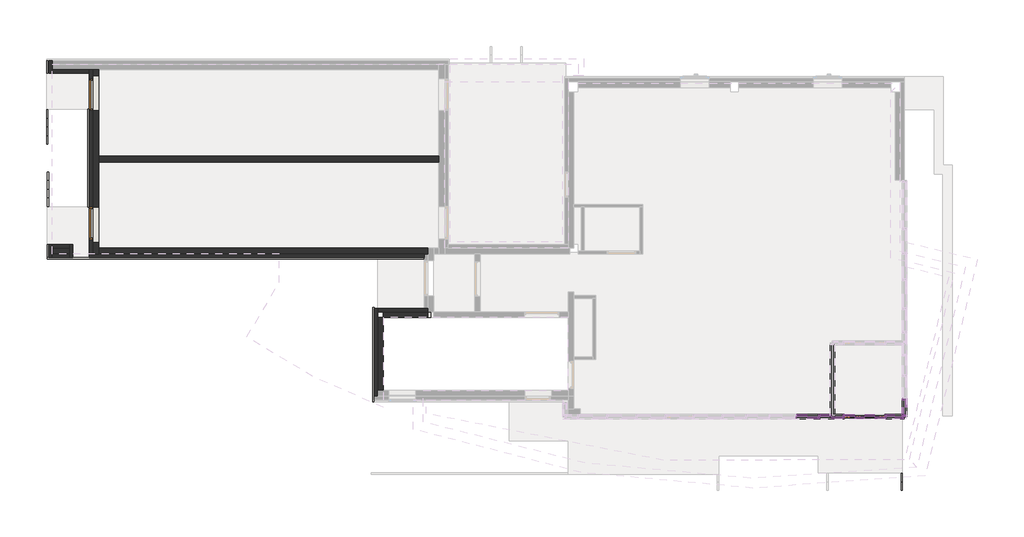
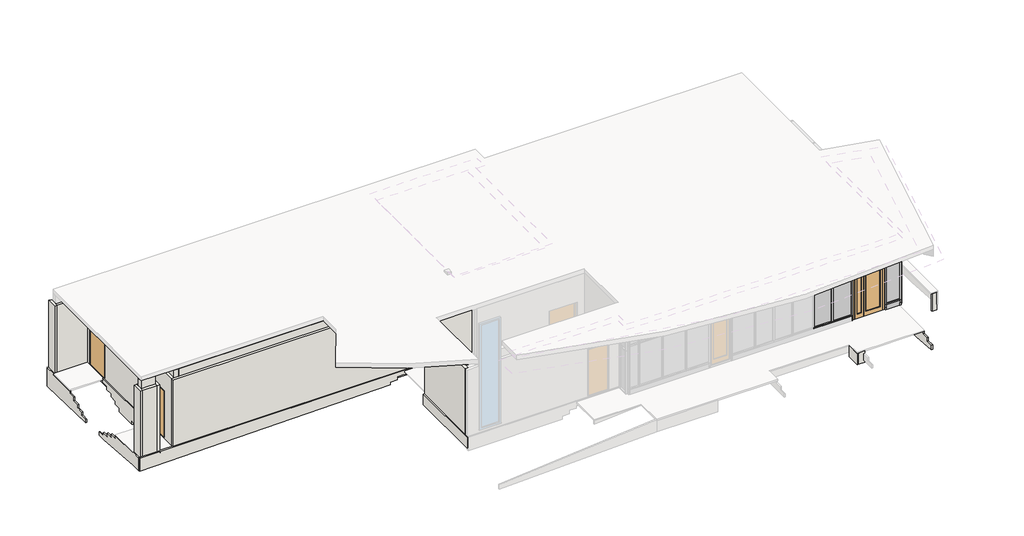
# One storey, part 2 of 4: 37 members, 25 walls, 10 plates, 3 doors.
"""IFC4 building model written with IfcOpenShell, lengths in millimetres."""

from ifc_helpers import new_model, si_unit, frame, origin, place, context, project, spatial, polyline, circle_curve, outline, extrude, faceted_brep, transform, mapped, element, save
from ifc_brep_helpers import plane_surface, cylinder_surface, advanced_brep
from components import door_2dab296f, door_a4a0d0d3, door_cfbb89e6, member_24ac0887, member_6e50c603, member_474f6dcf, member_cbae6808, member_bdea3084, member_61b3b229, member_1f1ab5e9, member_7164932b, member_728da853, member_65e6a114, member_e1845f1f, member_b1af7fba, member_6ffebc0f, member_5dbd0429, member_3eef92e2, member_550cda47, member_dfe3d6a4, member_004b0564, member_24efe938, member_14f10ac7, member_c7e1fe4c, member_457f9466, member_0d3281e4, member_32c4282c, member_044d981f, member_8a69f4a4, member_5b5377e9, plate_732bb6f4, plate_a8ff62f7, plate_88a3cac9, plate_20a5c04c, plate_8821ab84, plate_111b1b22, plate_83b13906, plate_796883d3, plate_dd9e7dd6

model = new_model("IFC4")

# Units and contexts
model_context = context("Model", 3, world=origin())
ifc_project = project(units=[si_unit("LENGTHUNIT", "METRE", prefix="MILLI")], contexts=[model_context])

# Site, building, storey
site = spatial("IfcSite", under=ifc_project)
building = spatial("IfcBuilding", under=site)
storey = spatial("IfcBuildingStorey", under=building, Name="Этаж 1", Elevation=0.0)

# Doors
placement = place(None, origin())
door_shape = door_2dab296f(model_context)
element("IfcDoor", 1, ObjectType="(Dr)_ДПУ(распашная)_2Ст_Прямоугольная : (Нр)-ДО(1380х2165(h))", at=placement, inside=storey, context=model_context, shape_type="MappedRepresentation", body=[
    mapped(door_shape, transform((26221.8862538, -895.4505288, -50.0), x_axis=(-1.0, 0.0, 0.0), y_axis=(0.0, -1.0, 0.0), z_axis=(0.0, 0.0, 1.0))),
])
door_2_shape = door_a4a0d0d3(model_context)
element("IfcDoor", 2, ObjectType="(Dr)_ДУ(распашная)_1Ст_Прямоугольная : (Нр)_ДГ(1.10х2.1(h))", at=placement, inside=storey, context=model_context, shape_type="MappedRepresentation", body=[
    mapped(door_2_shape, transform((-260.0, 10140.0, 0.0), x_axis=(0.0, 1.0, 0.0), y_axis=(-1.0, 0.0, 0.0), z_axis=(0.0, 0.0, 1.0))),
])
door_3_shape = door_cfbb89e6(model_context)
element("IfcDoor", 3, ObjectType="(Dr)_ДУ(распашная)_1Ст_Прямоугольная : (Нр)_ДГ(1.10х2.1(h))", at=placement, inside=storey, context=model_context, shape_type="MappedRepresentation", body=[
    mapped(door_3_shape, transform((-260.0, 5730.0000376, 0.0), x_axis=(0.0, 1.0, 0.0), y_axis=(-1.0, 0.0, 0.0), z_axis=(0.0, 0.0, 1.0))),
])

# Members
member_shape = member_24ac0887(model_context)
element("IfcMember", 4, ObjectType="Прямоугольный импост : 50х150мм", at=placement, inside=storey, context=model_context, shape_type="MappedRepresentation", body=[
    mapped(member_shape, transform((25117.9914484, -895.4505288, 3300.0), x_axis=(0.0, -1.0, 0.0), y_axis=(1.0, 0.0, 0.0), z_axis=(0.0, 0.0, 1.0))),
])
member_2_shape = member_6e50c603(model_context)
element("IfcMember", 5, ObjectType="Прямоугольный импост : 50х150мм", at=placement, inside=storey, context=model_context, shape_type="MappedRepresentation", body=[
    mapped(member_2_shape, transform((25117.9914484, -845.4505288, -50.0), x_axis=(0.0, 0.0, -1.0), y_axis=(1.0, 0.0, 0.0), z_axis=(0.0, -1.0, 0.0))),
])
member_3_shape = member_474f6dcf(model_context)
element("IfcMember", 6, ObjectType="Прямоугольный импост : 50х150мм", at=placement, inside=storey, context=model_context, shape_type="MappedRepresentation", body=[
    mapped(member_3_shape, transform((25481.8862538, -895.4505288, 2140.0), x_axis=(0.0, 0.0, 1.0), y_axis=(0.0, -1.0, 0.0), z_axis=(1.0, 0.0, 0.0))),
])
member_4_shape = member_cbae6808(model_context)
element("IfcMember", 7, ObjectType="Прямоугольный импост : 50х150мм", at=placement, inside=storey, context=model_context, shape_type="MappedRepresentation", body=[
    mapped(member_4_shape, transform((25481.8862538, -895.4505288, 3300.0), x_axis=(0.0, 0.0, 1.0), y_axis=(0.0, -1.0, 0.0), z_axis=(1.0, 0.0, 0.0))),
])
member_5_shape = member_bdea3084(model_context)
element("IfcMember", 8, ObjectType="Прямоугольный импост : 50х150мм", at=placement, inside=storey, context=model_context, shape_type="MappedRepresentation", body=[
    mapped(member_5_shape, transform((26911.8862538, -895.4505288, 2140.0), x_axis=(0.0, 0.0, 1.0), y_axis=(0.0, -1.0, 0.0), z_axis=(1.0, 0.0, 0.0))),
])
member_6_shape = member_61b3b229(model_context)
element("IfcMember", 9, ObjectType="Прямоугольный импост : 50х150мм", at=placement, inside=storey, context=model_context, shape_type="MappedRepresentation", body=[
    mapped(member_6_shape, transform((26911.8862538, -895.4505288, 3300.0), x_axis=(0.0, 0.0, 1.0), y_axis=(0.0, -1.0, 0.0), z_axis=(1.0, 0.0, 0.0))),
])
member_7_shape = member_1f1ab5e9(model_context)
element("IfcMember", 10, ObjectType="Прямоугольный импост : 50х150мм", at=placement, inside=storey, context=model_context, shape_type="MappedRepresentation", body=[
    mapped(member_7_shape, transform((24657.9914484, -895.4505288, 2140.0), x_axis=(1.0, 0.0, 0.0), y_axis=(0.0, -1.0, 0.0), z_axis=(0.0, 0.0, -1.0))),
])
element("IfcMember", 11, ObjectType="Прямоугольный импост : 50х150мм", at=placement, inside=storey, context=model_context, shape_type="MappedRepresentation", body=[
    mapped(member_7_shape, transform((25506.8862538, -895.4505288, 2140.0), x_axis=(1.0, 0.0, 0.0), y_axis=(0.0, -1.0, 0.0), z_axis=(0.0, 0.0, -1.0))),
])
element("IfcMember", 12, ObjectType="Прямоугольный импост : 50х150мм", at=placement, inside=storey, context=model_context, shape_type="MappedRepresentation", body=[
    mapped(member_7_shape, transform((26936.8862538, -895.4505288, 2140.0), x_axis=(1.0, 0.0, 0.0), y_axis=(0.0, -1.0, 0.0), z_axis=(0.0, 0.0, -1.0))),
])
element("IfcMember", 13, ObjectType="Прямоугольный импост : 50х150мм", at=placement, inside=storey, context=model_context, shape_type="MappedRepresentation", body=[
    mapped(member_7_shape, transform((27587.9990554, -295.4505288, 2140.0), x_axis=(0.0, 1.0, 0.0), y_axis=(1.0, 0.0, 0.0), z_axis=(0.0, 0.0, -1.0))),
])
member_8_shape = member_7164932b(model_context)
element("IfcMember", 14, ObjectType="Прямоугольный импост : 50х150мм", at=placement, inside=storey, context=model_context, shape_type="MappedRepresentation", body=[
    mapped(member_8_shape, transform((27587.9990554, -295.4505288, 165.0), x_axis=(0.0, 1.0, 0.0), y_axis=(1.0, 0.0, 0.0), z_axis=(0.0, 0.0, -1.0))),
])
member_9_shape = member_728da853(model_context)
element("IfcMember", 15, ObjectType="Прямоугольный импост : 50х150мм", at=placement, inside=storey, context=model_context, shape_type="MappedRepresentation", body=[
    mapped(member_9_shape, transform((25506.8862538, -895.4505288, 190.0), x_axis=(1.0, 0.0, 0.0), y_axis=(0.0, -1.0, 0.0), z_axis=(0.0, 0.0, -1.0))),
])
element("IfcMember", 16, ObjectType="Прямоугольный импост : 50х150мм", at=placement, inside=storey, context=model_context, shape_type="MappedRepresentation", body=[
    mapped(member_9_shape, transform((26936.8862538, -895.4505288, 190.0), x_axis=(1.0, 0.0, 0.0), y_axis=(0.0, -1.0, 0.0), z_axis=(0.0, 0.0, -1.0))),
])
member_10_shape = member_65e6a114(model_context)
element("IfcMember", 17, ObjectType="Прямоугольный импост : 50х150мм", at=placement, inside=storey, context=model_context, shape_type="MappedRepresentation", body=[
    mapped(member_10_shape, transform((27587.9990554, -895.4505288, 3300.0), x_axis=(0.0, -1.0, 0.0), y_axis=(1.0, 0.0, 0.0), z_axis=(0.0, 0.0, 1.0))),
])
element("IfcMember", 18, ObjectType="Прямоугольный импост : 50х150мм", at=placement, inside=storey, context=model_context, shape_type="MappedRepresentation", body=[
    mapped(member_10_shape, transform((27587.9990554, -895.4505288, 2140.0), x_axis=(1.0, 0.0, 0.0), y_axis=(0.0, -1.0, 0.0), z_axis=(0.0, 0.0, -1.0))),
])
member_11_shape = member_e1845f1f(model_context)
element("IfcMember", 19, ObjectType="Прямоугольный импост : 50х150мм", at=placement, inside=storey, context=model_context, shape_type="MappedRepresentation", body=[
    mapped(member_11_shape, transform((27587.9990554, -895.4505288, 2140.0), x_axis=(0.0, -1.0, 0.0), y_axis=(1.0, 0.0, 0.0), z_axis=(0.0, 0.0, 1.0))),
])
element("IfcMember", 20, ObjectType="Прямоугольный импост : 50х150мм", at=placement, inside=storey, context=model_context, shape_type="MappedRepresentation", body=[
    mapped(member_11_shape, transform((27587.9990554, -895.4505288, 190.0), x_axis=(1.0, 0.0, 0.0), y_axis=(0.0, -1.0, 0.0), z_axis=(0.0, 0.0, -1.0))),
])
member_12_shape = member_b1af7fba(model_context)
element("IfcMember", 21, ObjectType="Прямоугольный импост : 50х150мм", at=placement, inside=storey, context=model_context, shape_type="MappedRepresentation", body=[
    mapped(member_12_shape, transform((27587.9990554, -895.4505288, 190.0), x_axis=(0.0, -1.0, 0.0), y_axis=(1.0, 0.0, 0.0), z_axis=(0.0, 0.0, 1.0))),
])
member_13_shape = member_6ffebc0f(model_context)
element("IfcMember", 22, ObjectType="Прямоугольный импост : 50х150мм", at=placement, inside=storey, context=model_context, shape_type="MappedRepresentation", body=[
    mapped(member_13_shape, transform((27587.9990554, -295.4505288, -50.0), x_axis=(0.0, 0.0, -1.0), y_axis=(1.0, 0.0, 0.0), z_axis=(0.0, -1.0, 0.0))),
])
member_14_shape = member_5dbd0429(model_context)
element("IfcMember", 23, ObjectType="Прямоугольный импост : 50х150мм", at=placement, inside=storey, context=model_context, shape_type="MappedRepresentation", body=[
    mapped(member_14_shape, transform((27587.9990554, -845.4505288, -50.0), x_axis=(0.0, 0.0, -1.0), y_axis=(1.0, 0.0, 0.0), z_axis=(0.0, -1.0, 0.0))),
])
member_15_shape = member_3eef92e2(model_context)
element("IfcMember", 24, ObjectType="Прямоугольный импост : 50х150мм", at=placement, inside=storey, context=model_context, shape_type="MappedRepresentation", body=[
    mapped(member_15_shape, transform((25506.8862538, -895.4505288, -50.0), x_axis=(1.0, 0.0, 0.0), y_axis=(0.0, -1.0, 0.0), z_axis=(0.0, 0.0, -1.0))),
])
element("IfcMember", 25, ObjectType="Прямоугольный импост : 50х150мм", at=placement, inside=storey, context=model_context, shape_type="MappedRepresentation", body=[
    mapped(member_15_shape, transform((26936.8862538, -895.4505288, -50.0), x_axis=(1.0, 0.0, 0.0), y_axis=(0.0, -1.0, 0.0), z_axis=(0.0, 0.0, -1.0))),
])
member_16_shape = member_550cda47(model_context)
element("IfcMember", 26, ObjectType="Прямоугольный импост : 50х150мм", at=placement, inside=storey, context=model_context, shape_type="MappedRepresentation", body=[
    mapped(member_16_shape, transform((27587.9990554, -895.4505288, -50.0), x_axis=(1.0, 0.0, 0.0), y_axis=(0.0, -1.0, 0.0), z_axis=(0.0, 0.0, -1.0))),
])
member_17_shape = member_dfe3d6a4(model_context)
element("IfcMember", 27, ObjectType="Прямоугольный импост : 50х150мм", at=placement, inside=storey, context=model_context, shape_type="MappedRepresentation", body=[
    mapped(member_17_shape, transform((25506.8862538, -895.4505288, 50.0), x_axis=(1.0, 0.0, 0.0), y_axis=(0.0, -1.0, 0.0), z_axis=(0.0, 0.0, -1.0))),
])
element("IfcMember", 28, ObjectType="Прямоугольный импост : 50х150мм", at=placement, inside=storey, context=model_context, shape_type="MappedRepresentation", body=[
    mapped(member_17_shape, transform((26936.8862538, -895.4505288, 50.0), x_axis=(1.0, 0.0, 0.0), y_axis=(0.0, -1.0, 0.0), z_axis=(0.0, 0.0, -1.0))),
])
member_18_shape = member_004b0564(model_context)
element("IfcMember", 29, ObjectType="Прямоугольный импост : 50х150мм", at=placement, inside=storey, context=model_context, shape_type="MappedRepresentation", body=[
    mapped(member_18_shape, transform((27587.9990554, -895.4505288, 50.0), x_axis=(1.0, 0.0, 0.0), y_axis=(0.0, -1.0, 0.0), z_axis=(0.0, 0.0, -1.0))),
])
member_19_shape = member_24efe938(model_context)
element("IfcMember", 30, ObjectType="Прямоугольный импост : 50х150мм", at=placement, inside=storey, context=model_context, shape_type="MappedRepresentation", body=[
    mapped(member_19_shape, transform((24657.9914484, -895.4505288, 215.0), x_axis=(1.0, 0.0, 0.0), y_axis=(0.0, -1.0, 0.0), z_axis=(0.0, 0.0, -1.0))),
])
member_20_shape = member_14f10ac7(model_context)
element("IfcMember", 31, ObjectType="Прямоугольный импост : 50х150мм", at=placement, inside=storey, context=model_context, shape_type="MappedRepresentation", body=[
    mapped(member_20_shape, transform((24657.9914484, -895.4505288, 190.0), x_axis=(0.0, 0.0, 1.0), y_axis=(0.0, -1.0, 0.0), z_axis=(1.0, 0.0, 0.0))),
])
member_21_shape = member_c7e1fe4c(model_context)
element("IfcMember", 32, ObjectType="Прямоугольный импост : 50х150мм", at=placement, inside=storey, context=model_context, shape_type="MappedRepresentation", body=[
    mapped(member_21_shape, transform((25481.8862538, -895.4505288, 190.0), x_axis=(0.0, 0.0, 1.0), y_axis=(0.0, -1.0, 0.0), z_axis=(1.0, 0.0, 0.0))),
])
member_22_shape = member_457f9466(model_context)
element("IfcMember", 33, ObjectType="Прямоугольный импост : 50х150мм", at=placement, inside=storey, context=model_context, shape_type="MappedRepresentation", body=[
    mapped(member_22_shape, transform((24632.9914484, -895.4505288, 2140.0), x_axis=(0.0, 0.0, 1.0), y_axis=(0.0, -1.0, 0.0), z_axis=(1.0, 0.0, 0.0))),
])
member_23_shape = member_0d3281e4(model_context)
element("IfcMember", 34, ObjectType="Прямоугольный импост : 50х150мм", at=placement, inside=storey, context=model_context, shape_type="MappedRepresentation", body=[
    mapped(member_23_shape, transform((24632.9914484, -895.4505288, 3300.0), x_axis=(0.0, 0.0, 1.0), y_axis=(0.0, -1.0, 0.0), z_axis=(1.0, 0.0, 0.0))),
])
member_24_shape = member_32c4282c(model_context)
element("IfcMember", 35, ObjectType="Прямоугольный импост : 50х150мм", at=placement, inside=storey, context=model_context, shape_type="MappedRepresentation", body=[
    mapped(member_24_shape, transform((27537.9990554, -895.4505288, 3300.0), x_axis=(0.0, 0.0, 1.0), y_axis=(0.0, -1.0, 0.0), z_axis=(1.0, 0.0, 0.0))),
])
member_25_shape = member_044d981f(model_context)
element("IfcMember", 36, ObjectType="Прямоугольный импост : 50х150мм", at=placement, inside=storey, context=model_context, shape_type="MappedRepresentation", body=[
    mapped(member_25_shape, transform((27537.9990554, -895.4505288, 2140.0), x_axis=(0.0, 0.0, 1.0), y_axis=(0.0, -1.0, 0.0), z_axis=(1.0, 0.0, 0.0))),
])
element("IfcMember", 37, ObjectType="Прямоугольный импост : 50х150мм", at=placement, inside=storey, context=model_context, shape_type="MappedRepresentation", body=[
    mapped(member_25_shape, transform((27537.9990554, -895.4505288, 190.0), x_axis=(0.0, 0.0, 1.0), y_axis=(0.0, -1.0, 0.0), z_axis=(1.0, 0.0, 0.0))),
])
member_26_shape = member_8a69f4a4(model_context)
element("IfcMember", 38, ObjectType="Прямоугольный импост : 50х150мм", at=placement, inside=storey, context=model_context, shape_type="MappedRepresentation", body=[
    mapped(member_26_shape, transform((27587.9990554, -320.4505288, 2140.0), x_axis=(0.0, 0.0, 1.0), y_axis=(1.0, 0.0, 0.0), z_axis=(0.0, 1.0, 0.0))),
])
element("IfcMember", 39, ObjectType="Прямоугольный импост : 50х150мм", at=placement, inside=storey, context=model_context, shape_type="MappedRepresentation", body=[
    mapped(member_26_shape, transform((27587.9990554, -320.4505288, 190.0), x_axis=(0.0, 0.0, 1.0), y_axis=(1.0, 0.0, 0.0), z_axis=(0.0, 1.0, 0.0))),
])
member_27_shape = member_5b5377e9(model_context)
element("IfcMember", 40, ObjectType="Прямоугольный импост : 50х150мм", at=placement, inside=storey, context=model_context, shape_type="MappedRepresentation", body=[
    mapped(member_27_shape, transform((27587.9990554, -320.4505288, 3300.0), x_axis=(0.0, 0.0, 1.0), y_axis=(1.0, 0.0, 0.0), z_axis=(0.0, 1.0, 0.0))),
])

# Plates
element("IfcPlate", 41, ObjectType="(Нр)_(См-10.Ут-130.См-10)", at=placement, inside=storey, context=model_context, shape_type="SweptSolid", body=[
    extrude(outline(polyline([(27537.9990554, -970.4505288), (26961.8862538, -970.4505288), (26961.8862538, -820.4505288), (27537.9990554, -820.4505288), (27537.9990554, -970.4505288)])), frame((0.0, 0.0, -50.0), z_axis=(0.0, 0.0, 1.0), x_axis=(1.0, 0.0, 0.0)), (0.0, 0.0, 1.0), 215.0),
])
plate_shape = plate_732bb6f4(model_context)
element("IfcPlate", 42, ObjectType="Системная панель : Стекло(50мм)", at=placement, inside=storey, context=model_context, shape_type="MappedRepresentation", body=[
    mapped(plate_shape, transform((24257.9914484, -895.4505288, 2165.0), x_axis=(1.0, 0.0, 0.0), y_axis=(0.0, 1.0, 0.0), z_axis=(0.0, 0.0, 1.0))),
])
plate_2_shape = plate_a8ff62f7(model_context)
element("IfcPlate", 43, ObjectType="Системная панель : Стекло(50мм)", at=placement, inside=storey, context=model_context, shape_type="MappedRepresentation", body=[
    mapped(plate_2_shape, transform((25082.4388511, -895.4505288, 2165.0), x_axis=(1.0, 0.0, 0.0), y_axis=(0.0, 1.0, 0.0), z_axis=(0.0, 0.0, 1.0))),
])
plate_3_shape = plate_88a3cac9(model_context)
element("IfcPlate", 44, ObjectType="Системная панель : Стекло(50мм)", at=placement, inside=storey, context=model_context, shape_type="MappedRepresentation", body=[
    mapped(plate_3_shape, transform((26221.8862538, -895.4505288, 2165.0), x_axis=(1.0, 0.0, 0.0), y_axis=(0.0, 1.0, 0.0), z_axis=(0.0, 0.0, 1.0))),
])
plate_4_shape = plate_20a5c04c(model_context)
element("IfcPlate", 45, ObjectType="Системная панель : Стекло(50мм)", at=placement, inside=storey, context=model_context, shape_type="MappedRepresentation", body=[
    mapped(plate_4_shape, transform((27249.9426546, -895.4505288, 2165.0), x_axis=(1.0, 0.0, 0.0), y_axis=(0.0, 1.0, 0.0), z_axis=(0.0, 0.0, 1.0))),
])
plate_5_shape = plate_8821ab84(model_context)
element("IfcPlate", 46, ObjectType="Системная панель : Стекло(50мм)", at=placement, inside=storey, context=model_context, shape_type="MappedRepresentation", body=[
    mapped(plate_5_shape, transform((24257.9914484, -895.4505288, 215.0), x_axis=(1.0, 0.0, 0.0), y_axis=(0.0, 1.0, 0.0), z_axis=(0.0, 0.0, 1.0))),
])
plate_6_shape = plate_111b1b22(model_context)
element("IfcPlate", 47, ObjectType="Системная панель : Стекло(50мм)", at=placement, inside=storey, context=model_context, shape_type="MappedRepresentation", body=[
    mapped(plate_6_shape, transform((25082.4388511, -895.4505288, 215.0), x_axis=(1.0, 0.0, 0.0), y_axis=(0.0, 1.0, 0.0), z_axis=(0.0, 0.0, 1.0))),
])
plate_7_shape = plate_83b13906(model_context)
element("IfcPlate", 48, ObjectType="Системная панель : Стекло(50мм)", at=placement, inside=storey, context=model_context, shape_type="MappedRepresentation", body=[
    mapped(plate_7_shape, transform((27249.9426546, -895.4505288, 215.0), x_axis=(1.0, 0.0, 0.0), y_axis=(0.0, 1.0, 0.0), z_axis=(0.0, 0.0, 1.0))),
])
plate_8_shape = plate_796883d3(model_context)
element("IfcPlate", 49, ObjectType="Системная панель : Стекло(50мм)", at=placement, inside=storey, context=model_context, shape_type="MappedRepresentation", body=[
    mapped(plate_8_shape, transform((27587.9990554, -582.9505288, 2165.0), x_axis=(0.0, 1.0, 0.0), y_axis=(-1.0, 0.0, 0.0), z_axis=(0.0, 0.0, 1.0))),
])
plate_9_shape = plate_dd9e7dd6(model_context)
element("IfcPlate", 50, ObjectType="Системная панель : Стекло(50мм)", at=placement, inside=storey, context=model_context, shape_type="MappedRepresentation", body=[
    mapped(plate_9_shape, transform((27587.9990554, -582.9505288, 215.0), x_axis=(0.0, 1.0, 0.0), y_axis=(-1.0, 0.0, 0.0), z_axis=(0.0, 0.0, 1.0))),
])

# Walls
element("IfcWall", 51, ObjectType="(Нр).(Ут-120)", at=placement, inside=storey, context=model_context, shape_type="Brep", body=[
    faceted_brep([(9550.291724, -200.0, -300.0), (9550.291724, 2700.0, -300.0), (9550.291724, 2820.0, -300.0), (9550.291724, 2820.0, 2955.0), (9550.291724, 2700.0, 2955.0), (9550.291724, -200.0, 2955.0), (9430.291724, -200.0, -300.0), (9430.291724, -200.0, 2955.0), (9430.291724, 2820.0, 2955.0), (9430.291724, 2820.0, -300.0)], [[[0, 1, 2, 3, 4, 5]], [[6, 7, 8, 9]], [[2, 1, 0, 6, 9]], [[5, 4, 3, 8, 7]], [[0, 5, 7, 6]], [[3, 2, 9, 8]]]),
])
element("IfcWall", 52, ObjectType="(Нр).(Ут-120)", at=placement, inside=storey, context=model_context, shape_type="Brep", body=[
    faceted_brep([(9550.291724, 2700.0, -300.0), (11270.0, 2700.0, -300.0), (11270.0, 2700.0, 2955.0), (9550.291724, 2700.0, 2955.0), (9550.291724, 2820.0, -300.0), (9550.291724, 2820.0, 2955.0), (11150.0, 2820.0, 2955.0), (11270.0, 2820.0, 2955.0), (11270.0, 2820.0, -300.0), (11150.0, 2820.0, -300.0)], [[[0, 1, 2, 3]], [[4, 5, 6, 7, 8, 9]], [[1, 0, 4, 9, 8]], [[3, 2, 7, 6, 5]], [[0, 3, 5, 4]], [[2, 1, 8, 7]]]),
])
element("IfcWall", 53, ObjectType="(Нр).(Ут-120)", at=placement, inside=storey, context=model_context, shape_type="Brep", body=[
    faceted_brep([(11150.0, 4680.0, -300.0), (-200.0, 4680.0, -300.0), (-320.0, 4680.0, -300.0), (-320.0, 4680.0, 2955.0), (-200.0, 4680.0, 2955.0), (11150.0, 4680.0, 2955.0), (11150.0, 4560.0, -300.0), (11150.0, 4560.0, 2955.0), (-320.0, 4560.0, 2955.0), (-320.0, 4560.0, -300.0)], [[[0, 1, 2, 3, 4, 5]], [[6, 7, 8, 9]], [[2, 1, 0, 6, 9]], [[5, 4, 3, 8, 7]], [[0, 5, 7, 6]], [[3, 2, 9, 8]]]),
])
element("IfcWall", 54, ObjectType="(Нр).(Ут-120)", at=placement, inside=storey, context=model_context, shape_type="Brep", body=[
    faceted_brep([(-200.0, 4680.0, -300.0), (-200.0, 10990.0, -300.0), (-200.0, 10990.0, 2955.0), (-200.0, 4680.0, 2955.0), (-200.0, 6280.0000376, 2100.0), (-200.0, 6280.0000376, 0.0), (-200.0, 5180.0000376, 0.0), (-200.0, 5180.0000376, 2100.0), (-200.0, 10690.0, 2100.0), (-200.0, 10690.0, 0.0), (-200.0, 9590.0, 0.0), (-200.0, 9590.0, 2100.0), (-320.0, 4680.0, -300.0), (-320.0, 4680.0, 2955.0), (-320.0, 10870.0, 2955.0), (-320.0, 10990.0, 2955.0), (-320.0, 10990.0, -300.0), (-320.0, 10870.0, -300.0), (-320.0, 6280.0000376, 0.0), (-320.0, 6280.0000376, 2100.0), (-320.0, 5180.0000376, 2100.0), (-320.0, 5180.0000376, 0.0), (-320.0, 10690.0, 0.0), (-320.0, 10690.0, 2100.0), (-320.0, 9590.0, 2100.0), (-320.0, 9590.0, 0.0)], [[[0, 1, 2, 3], [4, 5, 6, 7], [8, 9, 10, 11]], [[12, 13, 14, 15, 16, 17], [18, 19, 20, 21], [22, 23, 24, 25]], [[1, 0, 12, 17, 16]], [[3, 2, 15, 14, 13]], [[0, 3, 13, 12]], [[2, 1, 16, 15]], [[5, 4, 19, 18]], [[19, 4, 7, 20]], [[20, 7, 6, 21]], [[5, 18, 21, 6]], [[9, 8, 23, 22]], [[23, 8, 11, 24]], [[24, 11, 10, 25]], [[9, 22, 25, 10]]]),
])
element("IfcWall", 55, ObjectType="(Нр).(Ут-120)", at=placement, inside=storey, context=model_context, shape_type="SweptSolid", body=[
    extrude(outline(polyline([(-1595.9332962, 10990.0), (-320.0, 10990.0), (-320.0, 10870.0), (-1595.9332962, 10870.0), (-1595.9332962, 10990.0)])), frame((0.0, 0.0, -300.0), z_axis=(0.0, 0.0, 1.0), x_axis=(1.0, 0.0, 0.0)), (0.0, 0.0, 1.0), 3255.0),
])
element("IfcWall", 56, ObjectType="(Нр).(Ут-120)", at=placement, inside=storey, context=model_context, shape_type="Brep", body=[
    faceted_brep([(-1595.9332962, 10870.0, 2955.0), (-1595.9332962, 10870.0, -300.0), (-1595.9332962, 10990.0, -300.0), (-1595.9332962, 11190.0, -300.0), (-1595.9332962, 11310.0, -300.0), (-1595.9332962, 11310.0, 2955.0), (-1595.9332962, 11190.0, 2955.0), (-1595.9332962, 10990.0, 2955.0), (-1715.9332962, 10870.0, -300.0), (-1715.9332962, 10870.0, 2955.0), (-1715.9332962, 11310.0, 2955.0), (-1715.9332962, 11310.0, -300.0)], [[[0, 1, 2, 3, 4, 5, 6, 7]], [[8, 9, 10, 11]], [[4, 3, 2, 1, 8, 11]], [[0, 7, 6, 5, 10, 9]], [[0, 9, 8, 1]], [[4, 11, 10, 5]]]),
])
element("IfcWall", 57, ObjectType="(Нр).(Ут-120)", at=placement, inside=storey, context=model_context, shape_type="SweptSolid", body=[
    extrude(outline(polyline([(-1000.0, 4880.0), (-1595.9332962, 4880.0), (-1596.496293, 5000.0), (-1000.0, 5000.0), (-1000.0, 4880.0)])), frame((0.0, 0.0, -300.0), z_axis=(0.0, 0.0, 1.0), x_axis=(1.0, 0.0, 0.0)), (0.0, 0.0, 1.0), 3255.0),
])
element("IfcWall", 58, ObjectType="(Нр).(Ут-120)", at=placement, inside=storey, context=model_context, shape_type="Brep", body=[
    faceted_brep([(-1000.0, 5000.0, -300.0), (-1000.0, 4880.0, -300.0), (-1000.0, 4680.0, -300.0), (-1000.0, 4560.0, -300.0), (-1000.0, 4560.0, 2955.0), (-1000.0, 4680.0, 2955.0), (-1000.0, 4880.0, 2955.0), (-1000.0, 5000.0, 2955.0), (-880.0, 5000.0, -300.0), (-880.0, 5000.0, 2955.0), (-880.0, 4560.0, 2955.0), (-880.0, 4560.0, -300.0)], [[[0, 1, 2, 3, 4, 5, 6, 7]], [[8, 9, 10, 11]], [[3, 2, 1, 0, 8, 11]], [[7, 6, 5, 4, 10, 9]], [[0, 7, 9, 8]], [[4, 3, 11, 10]]]),
])
element("IfcWall", 59, ObjectType="(Нр).(Ут-120)", at=placement, inside=storey, context=model_context, shape_type="SweptSolid", body=[
    extrude(outline(polyline([(-1594.994968, 4680.0), (-1000.0, 4680.0), (-1000.0, 4560.0), (-1594.4319711, 4560.0), (-1594.994968, 4680.0)])), frame((0.0, 0.0, -300.0), z_axis=(0.0, 0.0, 1.0), x_axis=(1.0, 0.0, 0.0)), (0.0, 0.0, 1.0), 3255.0),
])
element("IfcWall", 60, ObjectType="(Нр).(Ут-120)", at=placement, inside=storey, context=model_context, shape_type="Brep", body=[
    faceted_brep([(-1594.4319711, 4560.0, -300.0), (-1594.994968, 4680.0, -300.0), (-1595.9332962, 4880.0, -300.0), (-1596.496293, 5000.0, -300.0), (-1596.496293, 5000.0, 2955.0), (-1595.9332962, 4880.0, 2955.0), (-1594.994968, 4680.0, 2955.0), (-1594.4319711, 4560.0, 2955.0), (-1714.4332918, 4560.0, -300.0), (-1714.4332918, 4560.0, 2955.0), (-1716.4976137, 5000.0, 2955.0), (-1716.4976137, 5000.0, -300.0)], [[[0, 1, 2, 3, 4, 5, 6, 7]], [[8, 9, 10, 11]], [[3, 2, 1, 0, 8, 11]], [[7, 6, 5, 4, 10, 9]], [[4, 3, 11, 10]], [[0, 7, 9, 8]]]),
])
element("IfcWall", 61, ObjectType="(Нр)_(ЖБ-200)", at=placement, inside=storey, context=model_context, shape_type="Brep", body=[
    faceted_brep([(-200.0, 10990.0, -100.0), (-200.0, 4680.0, -100.0), (-200.0, 4680.0, 3300.0), (-200.0, 10990.0, 3300.0), (-200.0, 5080.0000376, 2100.0), (-200.0, 5080.0000376, 0.0), (-200.0, 6280.0000376, 0.0), (-200.0, 6280.0000376, 2100.0), (-200.0, 9590.0, 2100.0), (-200.0, 9590.0, 0.0), (-200.0, 10790.0, 0.0), (-200.0, 10790.0, 2100.0), (0.0, 10990.0, -100.0), (0.0, 10990.0, 3300.0), (0.0, 8035.0, 3300.0), (0.0, 7835.0, 3300.0), (0.0, 4880.0, 3300.0), (0.0, 4680.0, 3300.0), (0.0, 4680.0, -100.0), (0.0, 4880.0, -100.0), (0.0, 7835.0, -100.0), (0.0, 8035.0, -100.0), (0.0, 5080.0000376, 2100.0), (0.0, 6280.0000376, 2100.0), (0.0, 6280.0000376, 0.0), (0.0, 5080.0000376, 0.0), (0.0, 9590.0, 2100.0), (0.0, 10790.0, 2100.0), (0.0, 10790.0, 0.0), (0.0, 9590.0, 0.0)], [[[0, 1, 2, 3], [4, 5, 6, 7], [8, 9, 10, 11]], [[12, 13, 14, 15, 16, 17, 18, 19, 20, 21], [22, 23, 24, 25], [26, 27, 28, 29]], [[1, 0, 12, 21, 20, 19, 18]], [[3, 2, 17, 16, 15, 14, 13]], [[0, 3, 13, 12]], [[2, 1, 18, 17]], [[5, 4, 22, 25]], [[6, 5, 25, 24]], [[7, 6, 24, 23]], [[4, 7, 23, 22]], [[9, 8, 26, 29]], [[10, 9, 29, 28]], [[11, 10, 28, 27]], [[8, 11, 27, 26]]]),
])
element("IfcWall", 62, ObjectType="(Вн)_(ЖБ-200)", at=placement, inside=storey, context=model_context, shape_type="SweptSolid", body=[
    extrude(outline(polyline([(11650.0, 7835.0), (0.0, 7835.0), (0.0, 8035.0), (11650.0, 8035.0), (11650.0, 7835.0)])), frame((0.0, 0.0, -100.0), z_axis=(0.0, 0.0, 1.0), x_axis=(1.0, 0.0, 0.0)), (0.0, 0.0, 1.0), 3400.0),
])
element("IfcWall", 63, ObjectType="(Нр)_(ЖБ-200)", at=placement, inside=storey, context=model_context, shape_type="Brep", body=[
    faceted_brep([(0.0, 4680.0, -100.0), (11270.0, 4680.0, -100.0), (11270.0, 4680.0, 3300.0), (0.0, 4680.0, 3300.0), (0.0, 4880.0, -100.0), (0.0, 4880.0, 3300.0), (11270.0, 4880.0, 3300.0), (11270.0, 4880.0, 0.0), (11270.0, 4880.0, -100.0)], [[[0, 1, 2, 3]], [[4, 5, 6, 7, 8]], [[1, 0, 4, 8]], [[3, 2, 6, 5]], [[0, 3, 5, 4]], [[2, 1, 8, 7, 6]]]),
])
element("IfcWall", 64, ObjectType="(Нр)_(ЖБ-200)", at=placement, inside=storey, context=model_context, shape_type="Brep", body=[
    faceted_brep([(11370.0, 2700.0, 0.0), (11370.0, 2700.0, -100.0), (11370.0, 2700.0, -300.0), (9750.291724, 2700.0, -300.0), (9750.291724, 2700.0, 3300.0), (11270.0, 2700.0, 3300.0), (11270.0, 2700.0, 0.0), (11370.0, 2500.0, 0.0), (11270.0, 2500.0, 0.0), (11270.0, 2500.0, 3300.0), (9750.291724, 2500.0, 3300.0), (9750.291724, 2500.0, -300.0), (11370.0, 2500.0, -300.0), (11370.0, 2500.0, -100.0)], [[[0, 1, 2, 3, 4, 5, 6]], [[7, 8, 9, 10, 11, 12, 13]], [[2, 1, 0, 7, 13, 12]], [[3, 2, 12, 11]], [[4, 3, 11, 10]], [[5, 4, 10, 9]], [[6, 5, 9, 8]], [[0, 6, 8, 7]]]),
])
element("IfcWall", 65, ObjectType="(Нр)_(ЖБ-200)", at=placement, inside=storey, context=model_context, shape_type="AdvancedBrep", body=[
    advanced_brep(
    [(9550.291724, 2500.0, -300.0), (9550.291724, 0.0, -300.0), (9550.291724, 0.0, 2930.0), (9550.291724, 0.0, 2955.0), (9550.291724, 4.4700756, 2955.0), (9550.291724, 4.4700756, 3180.0), (9550.291724, 0.0, 3180.0), (9550.291724, 0.0, 3300.0), (9550.291724, 2500.0, 3300.0), (9750.291724, 2500.0, -300.0), (9750.291724, 2500.0, 3300.0), (9750.291724, 0.0, 3300.0), (9750.291724, 0.0, 3180.0), (9750.291724, 0.0, 2955.0), (9750.291724, 0.0, -300.0), (9561.9066105, 0.0, 2955.0), (9561.9066105, 0.0, 3180.0)],
    [
        (0, 1),
        (1, 2),
        (2, 3),
        (3, 4),
        (4, 5),
        (5, 6),
        (6, 7),
        (7, 8),
        (8, 0),
        (9, 10),
        (10, 11),
        (11, 12),
        (12, 13),
        (13, 14),
        (14, 9),
        (0, 9),
        (14, 1),
        (7, 11),
        (10, 8),
        (15, 4, circle_curve(frame((16778.7203102, 18769.2388228, 2955.0), z_axis=(0.0, 0.0, -1.0), x_axis=(0.8327622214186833, -0.5536308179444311, 0.0)), 20108.8718223)),
        (3, 15),
        (16, 6),
        (5, 16, circle_curve(frame((16778.7203102, 18769.2388228, 3180.0), z_axis=(0.0, 0.0, 1.0), x_axis=(0.8327622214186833, -0.5536308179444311, 0.0)), 20108.8718223)),
        (13, 15),
        (15, 16),
        (12, 16),
    ],
    [
        plane_surface(frame((9550.291724, 2500.0, -300.0), z_axis=(-1.0, 0.0, 0.0), x_axis=(0.0, -1.0, 0.0))),
        plane_surface(frame((9750.291724, 2500.0, -300.0), z_axis=(1.0, 0.0, 0.0), x_axis=(0.0, 1.0, 0.0))),
        plane_surface(frame((9550.291724, 2600.0, -300.0), z_axis=(0.0, 0.0, -1.0), x_axis=(1.0, 0.0, 0.0))),
        plane_surface(frame((9550.291724, -100.0, 3300.0), z_axis=(0.0, 0.0, 1.0), x_axis=(1.0, 0.0, 0.0))),
        plane_surface(frame((11370.0, 2500.0, -300.0), z_axis=(0.0, 1.0, 0.0), x_axis=(0.0, 0.0, 1.0))),
        plane_surface(frame((9550.291724, -100.0, 2955.0), z_axis=(0.0, 0.0, 1.0), x_axis=(1.0, 0.0, 0.0))),
        plane_surface(frame((9550.291724, -100.0, 3180.0), z_axis=(0.0, 0.0, -1.0), x_axis=(1.0, 0.0, 0.0))),
        plane_surface(frame((9688.291724, 0.0, -300.0), z_axis=(0.0, -1.0, 0.0), x_axis=(-1.0, 0.0, 0.0))),
        cylinder_surface(frame((16778.7203102, 18769.2388228, -480.0), z_axis=(0.0, 0.0, 1.0), x_axis=(0.8327622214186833, -0.5536308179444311, 0.0)), 20108.8718223),
        plane_surface(frame((12865.9533052, 0.0, -480.0), z_axis=(0.0, -1.0, 0.0), x_axis=(1.0, 0.0, 0.0))),
    ],
    [
        (0, [[1, 2, 3, 4, 5, 6, 7, 8, 9]]),
        (1, [[10, 11, 12, 13, 14, 15]]),
        (2, [[-1, 16, -15, 17]]),
        (3, [[-8, 18, -11, 19]]),
        (4, [[-9, -19, -10, -16]]),
        (5, [[20, -4, 21]]),
        (6, [[22, -6, 23]]),
        (7, [[-3, -2, -17, -14, 24, -21]]),
        (8, [[-5, -20, 25, -23]]),
        (9, [[-24, -13, 26, -25]]),
        (7, [[-7, -22, -26, -12, -18]]),
    ],
),
])
element("IfcWall", 66, ObjectType="(Нр)_(ЖБ-200)", at=placement, inside=storey, context=model_context, shape_type="SweptSolid", body=[
    extrude(outline(polyline([(-1595.9332962, 4880.0), (-1000.0, 4880.0), (-1000.0, 4680.0), (-1594.994968, 4680.0), (-1595.9332962, 4880.0)])), frame((0.0, 0.0, -300.0), z_axis=(0.0, 0.0, 1.0), x_axis=(1.0, 0.0, 0.0)), (0.0, 0.0, 1.0), 3600.0),
])
element("IfcWall", 67, ObjectType="(Нр)_(От-45)_Керамогранит", at=placement, inside=storey, context=model_context, shape_type="SweptSolid", body=[
    extrude(outline(polyline([(9385.291724, -395.0), (9385.291724, 2842.5), (9430.291724, 2842.5), (9430.291724, -395.0), (9385.291724, -395.0)])), frame((0.0, 0.0, -500.0), z_axis=(0.0, 0.0, 1.0), x_axis=(1.0, 0.0, 0.0)), (0.0, 0.0, 1.0), 475.0),
])
element("IfcWall", 68, ObjectType="(Нр)_(От-45)_Керамогранит", at=placement, inside=storey, context=model_context, shape_type="Brep", body=[
    faceted_brep([(24640.0009446, -2230.0, -600.0), (24640.0009446, -2820.0, -600.0), (24640.0009446, -2820.0, -100.0), (24640.0009446, -2230.0, -100.0), (24685.0009446, -2230.0, -600.0), (24685.0009446, -2230.0, -400.0), (24685.0009446, -2230.0, -100.0), (24685.0009446, -2775.0, -100.0), (24685.0009446, -2820.0, -100.0), (24685.0009446, -2820.0, -600.0), (24685.0009446, -2775.0, -600.0)], [[[0, 1, 2, 3]], [[4, 5, 6, 7, 8, 9, 10]], [[1, 0, 4, 10, 9]], [[3, 2, 8, 7, 6]], [[0, 3, 6, 5, 4]], [[2, 1, 9, 8]]]),
])
element("IfcWall", 69, ObjectType="(Нр)_(От-45)_Керамогранит", at=placement, inside=storey, context=model_context, shape_type="SweptSolid", body=[
    extrude(outline(polyline([(24969.9990554, -2820.0), (24685.0009446, -2820.0), (24685.0009446, -2775.0), (24969.9990554, -2775.0), (24969.9990554, -2820.0)])), frame((0.0, 0.0, -600.0), z_axis=(0.0, 0.0, 1.0), x_axis=(1.0, 0.0, 0.0)), (0.0, 0.0, 1.0), 500.0),
])
element("IfcWall", 70, ObjectType="(Нр)_(От-45)_Керамогранит", at=placement, inside=storey, context=model_context, shape_type="SweptSolid", body=[
    extrude(outline(polyline([(-3420.0, -350.0), (-3120.0, -350.0), (-3120.0, -200.0), (-2820.0, -200.0), (-2820.0, -100.0), (-885.0, -100.0), (-885.0, -730.0), (-1197.1967406, -730.0), (-3420.0, -550.0), (-3420.0, -350.0)])), frame((27469.9990554, 0.0, 0.0), z_axis=(1.0, 0.0, 0.0), x_axis=(0.0, 1.0, 0.0)), (0.0, 0.0, 1.0), 45.0),
])
element("IfcWall", 71, ObjectType="(Нр)_(От-45)_Керамогранит", at=placement, inside=storey, context=model_context, shape_type="Brep", body=[
    faceted_brep([(29169.9999881, -820.0, -900.0), (28969.9999881, -820.0, -900.0), (28969.9999881, -820.0, -100.0), (29169.9999881, -820.0, -100.0), (29169.9999881, -865.0, -900.0), (29169.9999881, -865.0, -651.7364764), (29169.9999881, -865.0, -100.0), (28969.9999881, -865.0, -100.0), (28969.9999881, -865.0, -900.0)], [[[0, 1, 2, 3]], [[4, 5, 6, 7, 8]], [[1, 0, 4, 8]], [[3, 2, 7, 6]], [[0, 3, 6, 5, 4]], [[2, 1, 8, 7]]]),
])
element("IfcWall", 72, ObjectType="(Нр)_(От-45)_Керамогранит", at=placement, inside=storey, context=model_context, shape_type="SweptSolid", body=[
    extrude(outline(polyline([(-25.0, -1760.9332962), (-623.8869047, -1760.9332962), (-470.0, 8950.291724), (-350.0, 8950.291724), (-350.0, 9250.291724), (-200.0, 9250.291724), (-200.0, 9550.291724), (-225.0, 9550.291724), (-225.0, 11150.0), (-25.0, 11150.0), (-25.0, -1760.9332962)])), frame((0.0, 4515.0, 0.0), z_axis=(0.0, 1.0, 0.0), x_axis=(0.0, 0.0, 1.0)), (0.0, 0.0, 1.0), 45.0),
])
element("IfcWall", 73, ObjectType="(Нр)_(От-45)_Керамогранит", at=placement, inside=storey, context=model_context, shape_type="SweptSolid", body=[
    extrude(outline(polyline([(8442.0220346, -800.0), (8442.0220346, -650.0), (8742.0220346, -650.0), (8742.0220346, -500.0), (9042.0220346, -500.0), (9042.0220346, -350.0), (9342.0220346, -350.0), (9342.0220346, -200.0), (9642.0220346, -200.0), (9642.0220346, -100.0), (10870.0, -100.0), (10870.0, -50.0), (11310.0, -50.0), (11310.0, -900.8193258), (8442.0220346, -800.0)])), frame((-1783.4332962, 0.0, 0.0), z_axis=(1.0, 0.0, 0.0), x_axis=(0.0, 1.0, 0.0)), (0.0, 0.0, 1.0), 45.0),
])
element("IfcWall", 74, ObjectType="(Нр)_(От-45)_Керамогранит", at=placement, inside=storey, context=model_context, shape_type="SweptSolid", body=[
    extrude(outline(polyline([(4560.0, -50.0), (5000.0, -50.0), (5000.0, -100.0), (6294.9949335, -100.0), (6294.9949335, -200.0), (6594.9949335, -200.0), (6594.9949335, -350.0), (6894.9949335, -350.0), (6894.9949335, -500.0), (7194.9949335, -500.0), (7194.9949335, -650.0), (7494.9949335, -650.0), (7494.9949335, -800.0), (7159.5847368, -800.0), (5000.0, -650.0), (4560.0, -619.438569), (4560.0, -50.0)])), frame((-1760.9332962, 0.0, 0.0), z_axis=(1.0, 0.0, 0.0), x_axis=(0.0, 1.0, 0.0)), (0.0, 0.0, 1.0), 45.0),
])
element("IfcWall", 75, ObjectType="(Нр)_(От-45)_Керамогранит", at=placement, inside=storey, context=model_context, shape_type="SweptSolid", body=[
    extrude(outline(polyline([(7494.9949335, -800.0), (7494.9949335, -650.0), (7194.9949335, -650.0), (7194.9949335, -500.0), (6894.9949335, -500.0), (6894.9949335, -350.0), (6594.9949335, -350.0), (6594.9949335, -200.0), (6294.9949335, -200.0), (6294.9949335, -25.0), (9642.0220346, -25.0), (9642.0220346, -200.0), (9342.0220346, -200.0), (9342.0220346, -350.0), (9042.0220346, -350.0), (9042.0220346, -500.0), (8742.0220346, -500.0), (8742.0220346, -650.0), (8442.0220346, -650.0), (8442.0220346, -800.0), (7494.9949335, -800.0)])), frame((-365.0, 0.0, 0.0), z_axis=(1.0, 0.0, 0.0), x_axis=(0.0, 1.0, 0.0)), (0.0, 0.0, 1.0), 45.0),
])

save(model, "model.ifc")
